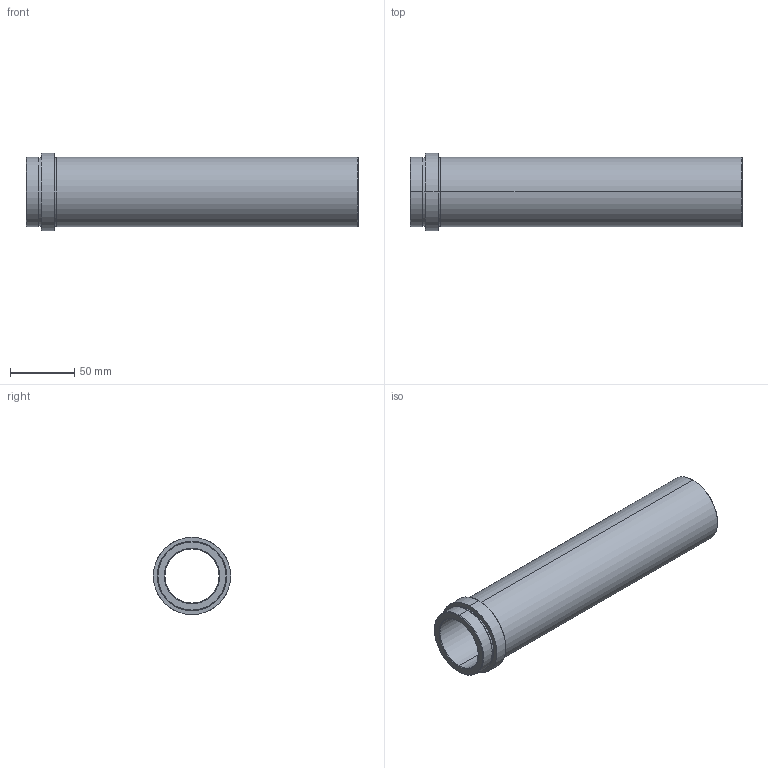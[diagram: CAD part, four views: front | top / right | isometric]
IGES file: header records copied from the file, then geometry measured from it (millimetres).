
Start section: SolidWorks IGES FILE using analytic representation for surfaces
Global section: file name: D:\zzzzz\Delta\D21\42\D21 - 42x246.IGS; native system: SolidWorks 2004 by SolidWorks Corporation; preprocessor: Version 5.3; author: Hkn; date: 080326.193649; units: millimetre
Bounding box: 258 x 60 x 60 mm (x, y, z)
Surface area: 81030.4 mm2 (no closed solid volume)
Topology: 0 solids, 0 shells, 26 faces, 848 edges, 848 vertices
Faces by surface type: revolution 20, bspline 6
